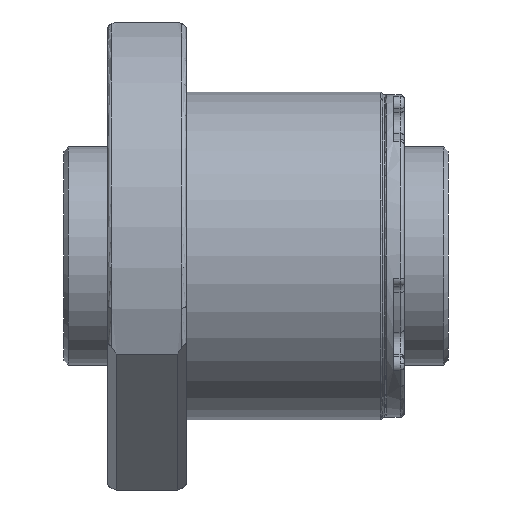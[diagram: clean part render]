
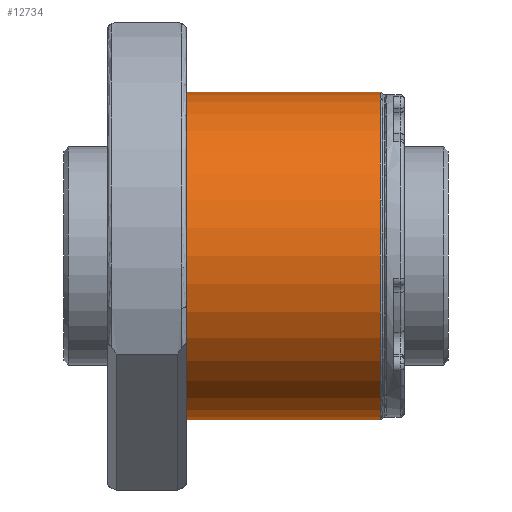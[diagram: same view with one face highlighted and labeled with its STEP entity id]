
A CAD part, front view. The second image highlights one B-rep face of the part: STEP entity #12734.
In plain terms, the highlighted cylindrical face has radius 37.5 mm (diameter 75 mm), a partial arc.
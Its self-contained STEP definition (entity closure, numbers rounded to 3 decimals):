
#139 = VERTEX_POINT ( 'NONE', #4709 ) ;
#366 = CARTESIAN_POINT ( 'NONE',  ( 18., 0., 37.5 ) ) ;
#641 = VECTOR ( 'NONE', #13767, 1000. ) ;
#700 = CIRCLE ( 'NONE', #9172, 37.5 ) ;
#889 = AXIS2_PLACEMENT_3D ( 'NONE', #9056, #10025, #2313 ) ;
#1452 = CARTESIAN_POINT ( 'NONE',  ( 18., 0., -37.5 ) ) ;
#1513 = AXIS2_PLACEMENT_3D ( 'NONE', #11111, #5515, #6604 ) ;
#1866 = EDGE_LOOP ( 'NONE', ( #2383, #2012, #10979, #10217 ) ) ;
#2012 = ORIENTED_EDGE ( 'NONE', *, *, #2691, .T. ) ;
#2313 = DIRECTION ( 'NONE',  ( 0., 0., -1. ) ) ;
#2383 = ORIENTED_EDGE ( 'NONE', *, *, #4070, .F. ) ;
#2691 = EDGE_CURVE ( 'NONE', #4675, #11385, #12777, .T. ) ;
#4070 = EDGE_CURVE ( 'NONE', #4675, #6757, #12919, .T. ) ;
#4378 = CYLINDRICAL_SURFACE ( 'NONE', #1513, 37.5 ) ;
#4576 = CARTESIAN_POINT ( 'NONE',  ( 62.5, 0., 37.5 ) ) ;
#4675 = VERTEX_POINT ( 'NONE', #8184 ) ;
#4709 = CARTESIAN_POINT ( 'NONE',  ( 62.5, 0., -37.5 ) ) ;
#4919 = FACE_OUTER_BOUND ( 'NONE', #1866, .T. ) ;
#5515 = DIRECTION ( 'NONE',  ( 1., 0., 0. ) ) ;
#5917 = DIRECTION ( 'NONE',  ( 1., 0., 0. ) ) ;
#6604 = DIRECTION ( 'NONE',  ( 0., 0., -1. ) ) ;
#6757 = VERTEX_POINT ( 'NONE', #4576 ) ;
#7133 = CARTESIAN_POINT ( 'NONE',  ( 62.5, 0., 0. ) ) ;
#8063 = DIRECTION ( 'NONE',  ( 0., 0., -1. ) ) ;
#8184 = CARTESIAN_POINT ( 'NONE',  ( 18., 0., 37.5 ) ) ;
#9056 = CARTESIAN_POINT ( 'NONE',  ( 18., 0., 0. ) ) ;
#9172 = AXIS2_PLACEMENT_3D ( 'NONE', #7133, #9302, #8063 ) ;
#9302 = DIRECTION ( 'NONE',  ( -1., 0., 0. ) ) ;
#10025 = DIRECTION ( 'NONE',  ( 1., 0., 0. ) ) ;
#10217 = ORIENTED_EDGE ( 'NONE', *, *, #12292, .T. ) ;
#10979 = ORIENTED_EDGE ( 'NONE', *, *, #14497, .T. ) ;
#11111 = CARTESIAN_POINT ( 'NONE',  ( 18., 0., 0. ) ) ;
#11385 = VERTEX_POINT ( 'NONE', #13338 ) ;
#11973 = LINE ( 'NONE', #1452, #14239 ) ;
#12292 = EDGE_CURVE ( 'NONE', #139, #6757, #700, .T. ) ;
#12734 = ADVANCED_FACE ( 'NONE', ( #4919 ), #4378, .T. ) ;
#12777 = CIRCLE ( 'NONE', #889, 37.5 ) ;
#12919 = LINE ( 'NONE', #366, #641 ) ;
#13338 = CARTESIAN_POINT ( 'NONE',  ( 18., 0., -37.5 ) ) ;
#13767 = DIRECTION ( 'NONE',  ( 1., 0., 0. ) ) ;
#14239 = VECTOR ( 'NONE', #5917, 1000. ) ;
#14497 = EDGE_CURVE ( 'NONE', #11385, #139, #11973, .T. ) ;
